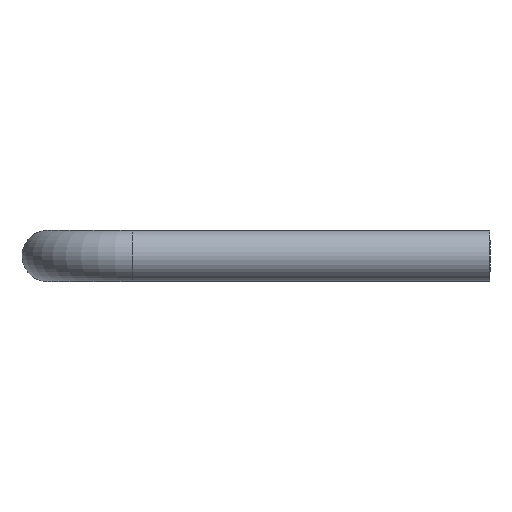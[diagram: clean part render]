
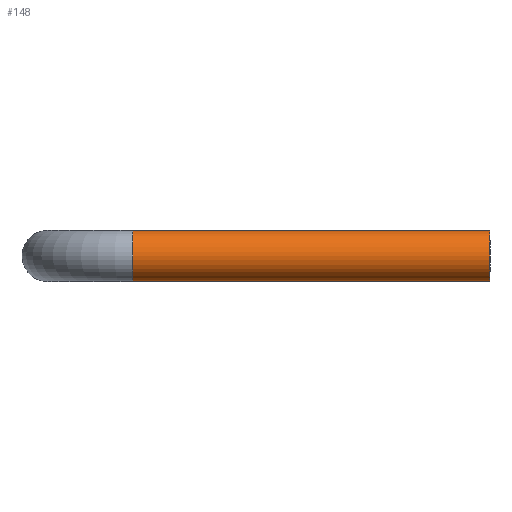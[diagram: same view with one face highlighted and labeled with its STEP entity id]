
A CAD part, left-side view. The second image highlights one B-rep face of the part: STEP entity #148.
In plain terms, the highlighted cylindrical face has radius 6 mm (diameter 12 mm), a full revolution.
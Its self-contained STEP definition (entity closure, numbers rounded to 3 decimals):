
#28=CYLINDRICAL_SURFACE('',#176,6.);
#35=ORIENTED_EDGE('',*,*,#59,.F.);
#36=ORIENTED_EDGE('',*,*,#57,.T.);
#57=EDGE_CURVE('',#69,#69,#83,.T.);
#59=EDGE_CURVE('',#71,#71,#85,.T.);
#69=VERTEX_POINT('',#253);
#71=VERTEX_POINT('',#258);
#83=CIRCLE('',#174,6.);
#85=CIRCLE('',#177,6.);
#97=EDGE_LOOP('',(#35));
#98=EDGE_LOOP('',(#36));
#121=FACE_BOUND('',#97,.T.);
#122=FACE_BOUND('',#98,.T.);
#148=ADVANCED_FACE('',(#121,#122),#28,.T.);
#174=AXIS2_PLACEMENT_3D('',#252,#202,#203);
#176=AXIS2_PLACEMENT_3D('',#256,#206,#207);
#177=AXIS2_PLACEMENT_3D('',#257,#208,#209);
#202=DIRECTION('',(0.,1.,0.));
#203=DIRECTION('',(0.,0.,1.));
#206=DIRECTION('',(0.,1.,0.));
#207=DIRECTION('',(0.,0.,1.));
#208=DIRECTION('',(0.,1.,0.));
#209=DIRECTION('',(0.,0.,1.));
#252=CARTESIAN_POINT('',(-80.,0.,0.));
#253=CARTESIAN_POINT('',(-80.,0.,6.));
#256=CARTESIAN_POINT('',(-80.,84.,0.));
#257=CARTESIAN_POINT('',(-80.,84.,0.));
#258=CARTESIAN_POINT('',(-80.,84.,6.));
